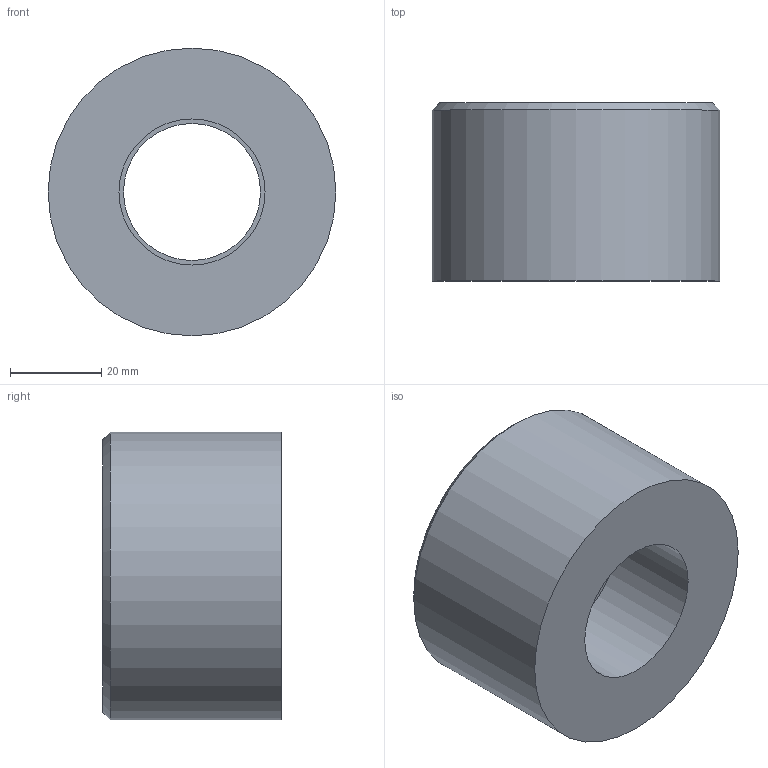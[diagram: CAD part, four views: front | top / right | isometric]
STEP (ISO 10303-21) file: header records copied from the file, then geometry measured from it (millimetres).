
FILE_DESCRIPTION(/* description */ ('PVC riduzione corta incollaggio metrica'),/* implementation_level */ '2;1');
FILE_NAME(/* name */ 'C:\Users\POLYPIPE\Desktop\DATASET INVENTOR\LIBRERIA EFFAST\RACCORDI 3DxWEB\RDR\3D_RDRRCD\3D_RDRRCD063D.stp',/* time_stamp */ '2018-01-19T15:31:00+01:00',/* author */ ('POLYPIPE'),/* organization */ ('Polypipe Italia s.r.l.'),/* preprocessor_version */ 'ST-DEVELOPER v16.1',/* originating_system */ 'Autodesk Inventor 2016',/* authorisation */ '');
FILE_SCHEMA (('CONFIG_CONTROL_DESIGN'));
Length unit declared in the file: millimetre
Products named in the file (1): 3D_RDRRCD
Bounding box: 63 x 39 x 63 mm (x, y, z)
Volume: 84726 mm3; surface area: 15792.9 mm2
Topology: 1 solids, 1 shells, 8 faces, 13 edges, 8 vertices
Faces by surface type: plane 3, cylinder 3, cone 2
Full cylindrical faces by diameter (mm): 30 x1, 32 x1, 63 x1
Entity records: 192 total; most frequent: DIRECTION 34, CARTESIAN_POINT 25, AXIS2_PLACEMENT_3D 17, EDGE_LOOP 16, ORIENTED_EDGE 16, FACE_BOUND 8, FACE_OUTER_BOUND 8, CIRCLE 8
